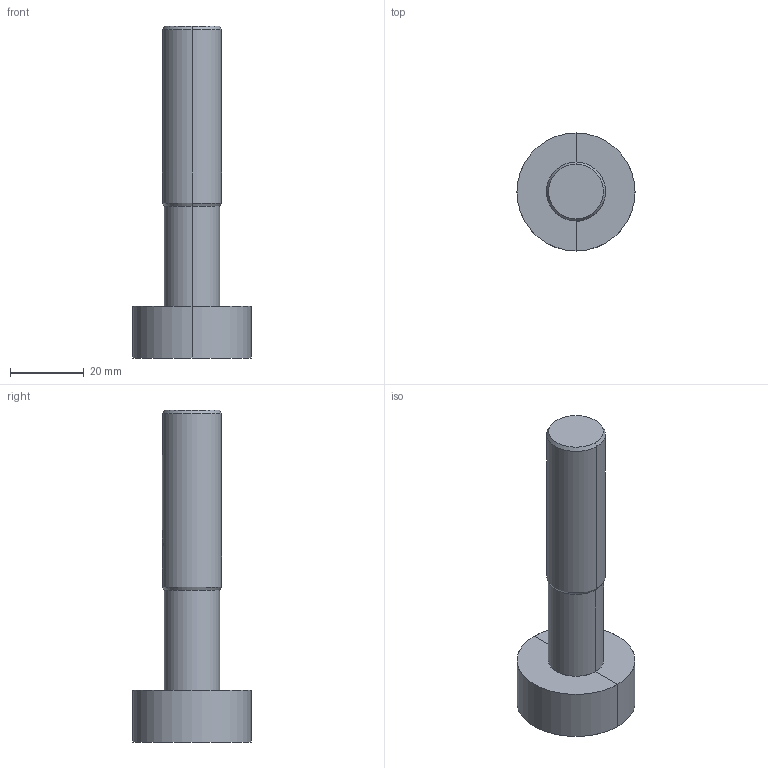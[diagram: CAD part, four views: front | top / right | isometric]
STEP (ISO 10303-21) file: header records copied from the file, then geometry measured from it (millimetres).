
FILE_DESCRIPTION(('no description'),'unknown implementation level');
FILE_NAME('solid63kH96Vr_vaYVZsXAyKxcrrB1Ec_1.STP',' ',('CIMSOURCE GmbH'),('CADClick - KiM GmbH - www.kimweb.de'),'unknown preprocess','ACIS','unknown authorization');
FILE_SCHEMA(('automotive_design'));
Length unit declared in the file: millimetre
Products named in the file (2): NOCUT; CUT
Bounding box: 32 x 32 x 90 mm (x, y, z)
Volume: 25853.4 mm3; surface area: 10586.7 mm2
Topology: 2 solids, 2 shells, 39 faces, 89 edges, 54 vertices
Faces by surface type: cylinder 18, cone 12, plane 9
Entity records: 2436 total; most frequent: CARTESIAN_POINT 468, DIRECTION 199, STYLED_ITEM 184, PRESENTATION_STYLE_ASSIGNMENT 184, COLOUR_RGB 184, ORIENTED_EDGE 178, EDGE_CURVE 89, CURVE_STYLE 89
